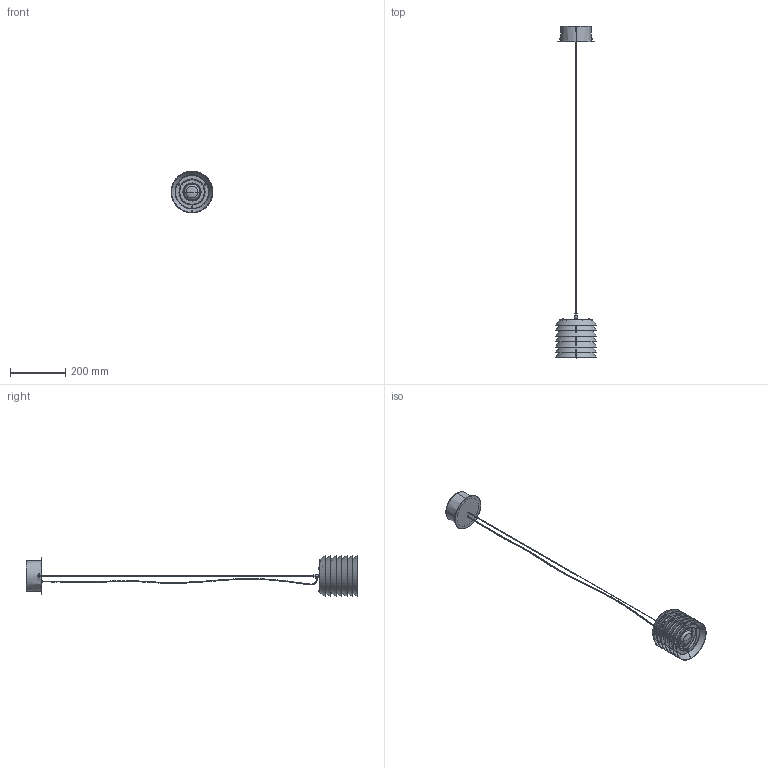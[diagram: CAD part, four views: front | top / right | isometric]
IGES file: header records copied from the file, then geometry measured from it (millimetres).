
Start section: SolidWorks IGES file using analytic representation for surfaces
Global section: file name: C:\Users\Andrea.Obradors\Desktop\Maija 15 Hanging lamp_3D.IGS; native system: SolidWorks 2015; preprocessor: SolidWorks 2015; author: Andrea.Obradors; date: 160218.184413; units: millimetre
Bounding box: 150 x 1200.6 x 150 mm (x, y, z)
Surface area: 338611.7 mm2 (no closed solid volume)
Topology: 0 solids, 0 shells, 280 faces, 6163 edges, 6150 vertices
Faces by surface type: revolution 164, bspline 116
